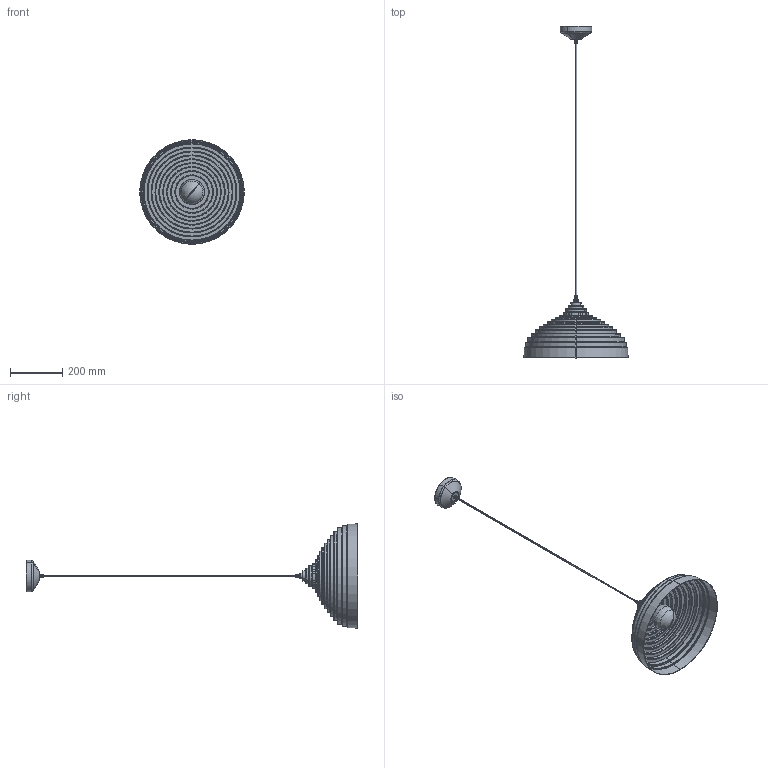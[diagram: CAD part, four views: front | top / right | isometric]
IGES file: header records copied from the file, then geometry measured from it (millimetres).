
Start section: SolidWorks IGES file using analytic representation for surfaces
Global section: file name: E:\3D lampy\Concrete\Concrete A\Concrete A.IGS; native system: SolidWorks 2016; preprocessor: SolidWorks 2016; author: Asia; date: 160927.141839; units: millimetre
Bounding box: 400 x 1272.1 x 400 mm (x, y, z)
Surface area: 724577 mm2 (no closed solid volume)
Topology: 0 solids, 0 shells, 1208 faces, 14372 edges, 14371 vertices
Faces by surface type: bspline 666, revolution 542
